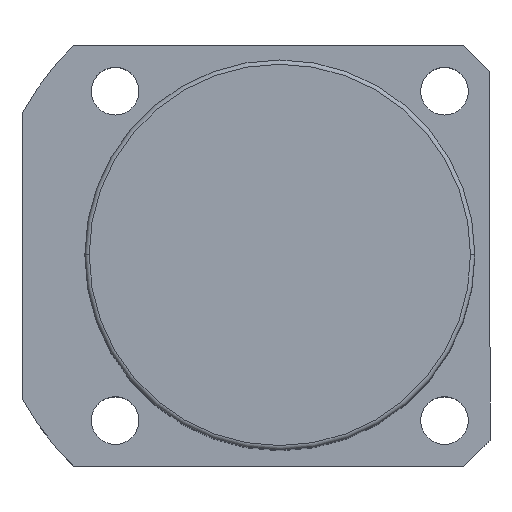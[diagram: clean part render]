
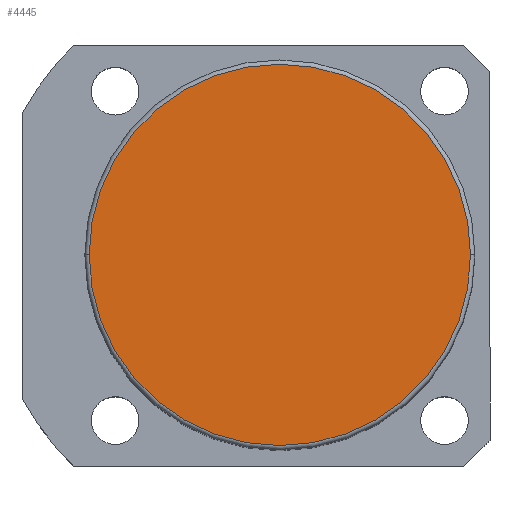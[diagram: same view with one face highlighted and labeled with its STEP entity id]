
A CAD part, top view. The second image highlights one B-rep face of the part: STEP entity #4445.
In plain terms, the highlighted planar face has unit normal (0, 0, 1).
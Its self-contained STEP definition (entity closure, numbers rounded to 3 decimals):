
#115 = PLANE ( 'NONE',  #7157 ) ;
#192 = CARTESIAN_POINT ( 'NONE',  ( 44., 0., 141.5 ) ) ;
#761 = EDGE_LOOP ( 'NONE', ( #2269, #2666 ) ) ;
#1024 = CARTESIAN_POINT ( 'NONE',  ( 0., 0., 141.5 ) ) ;
#1346 = CIRCLE ( 'NONE', #4082, 44. ) ;
#1575 = DIRECTION ( 'NONE',  ( 1., 0., 0. ) ) ;
#1630 = CARTESIAN_POINT ( 'NONE',  ( -44., 0., 141.5 ) ) ;
#2269 = ORIENTED_EDGE ( 'NONE', *, *, #3673, .T. ) ;
#2455 = FACE_OUTER_BOUND ( 'NONE', #761, .T. ) ;
#2666 = ORIENTED_EDGE ( 'NONE', *, *, #4228, .T. ) ;
#2855 = CARTESIAN_POINT ( 'NONE',  ( 0., 0., 141.5 ) ) ;
#3098 = VERTEX_POINT ( 'NONE', #1630 ) ;
#3122 = CIRCLE ( 'NONE', #6575, 44. ) ;
#3144 = CARTESIAN_POINT ( 'NONE',  ( 0., 0., 141.5 ) ) ;
#3673 = EDGE_CURVE ( 'NONE', #4498, #3098, #1346, .T. ) ;
#3693 = DIRECTION ( 'NONE',  ( 1., 0., 0. ) ) ;
#3900 = DIRECTION ( 'NONE',  ( 0., 0., 1. ) ) ;
#3956 = DIRECTION ( 'NONE',  ( 1., 0., 0. ) ) ;
#4082 = AXIS2_PLACEMENT_3D ( 'NONE', #3144, #7027, #3693 ) ;
#4228 = EDGE_CURVE ( 'NONE', #3098, #4498, #3122, .T. ) ;
#4445 = ADVANCED_FACE ( 'NONE', ( #2455 ), #115, .T. ) ;
#4498 = VERTEX_POINT ( 'NONE', #192 ) ;
#4878 = DIRECTION ( 'NONE',  ( 0., 0., 1. ) ) ;
#6575 = AXIS2_PLACEMENT_3D ( 'NONE', #1024, #4878, #1575 ) ;
#7027 = DIRECTION ( 'NONE',  ( 0., 0., 1. ) ) ;
#7157 = AXIS2_PLACEMENT_3D ( 'NONE', #2855, #3900, #3956 ) ;
